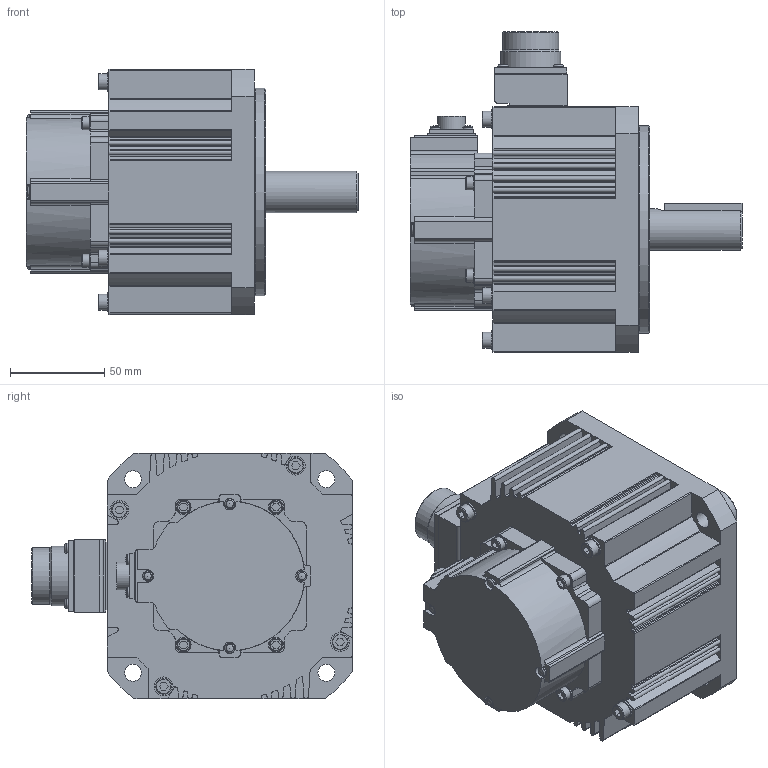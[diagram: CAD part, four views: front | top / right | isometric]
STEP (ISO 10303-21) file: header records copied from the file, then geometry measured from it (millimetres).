
FILE_DESCRIPTION( ( 'STEP AP214' ), ' ' );
FILE_NAME( 'p:/temp/worker_253/3140_2788/app_55_12016081613293472244817260eae72_000000_00_00_000000/format_0/MDMF102L1G5.stp', '2016-08-16T11:29:35', ( '' ), ( '' ), ' ', 'PARTsolutions', ' ' );
FILE_SCHEMA( ( 'AUTOMOTIVE_DESIGN { 1 0 10303 214 1 1 1 1 }' ) );
Length unit declared in the file: millimetre
Products named in the file (1): _MDMF102L1G5
Bounding box: 176 x 170 x 130 mm (x, y, z)
Volume: 1483355.8 mm3; surface area: 114203.3 mm2
Topology: 1 solids, 1 shells, 549 faces, 1474 edges, 961 vertices
Faces by surface type: plane 267, cylinder 227, cone 26, torus 17, sphere 12
Full cylindrical faces by diameter (mm): 2.459 x1, 7 x4, 8 x4, 8.5 x4, 9 x4, 10 x4, 14.8 x1, 22 x1, 29.75 x1, 31.75 x1, 34 x1, 38 x1, 45 x1, 102 x1, 110 x1
Entity records: 21267 total; most frequent: CARTESIAN_POINT 3150, DIRECTION 2945, ORIENTED_EDGE 2734, EDGE_CURVE 1367, AXIS2_PLACEMENT_3D 1063, VERTEX_POINT 946, LINE 819, VECTOR 819
